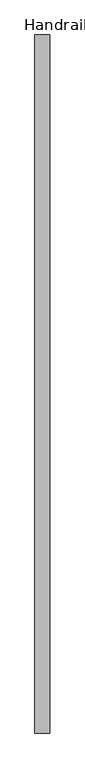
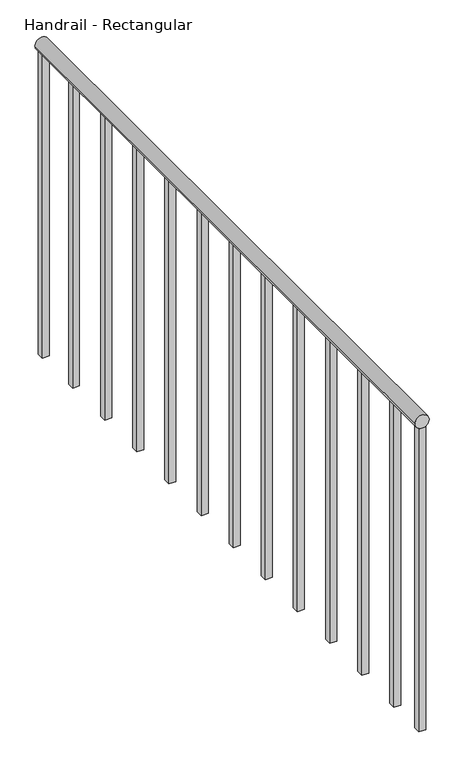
"""IFC4 building model written with IfcOpenShell, lengths in millimetres: railing geometry, Handrail - Rectangular."""

import ifcopenshell
import ifcopenshell.guid

model = None  # the IFC model being written
_history = None  # IfcOwnerHistory: only IFC2X3 demands one
_inside = {}  # id of a spatial element -> (the spatial element, [elements in it])
_under = {}  # id of a project, library or spatial element -> (it, [spatial elements below it])
_declared = {}  # id of a project -> (the project, [libraries it declares])
_typed = {}  # id of a type object -> (the type object, [elements of that type])
_made_of = {}  # id of a material, layer set ... -> (it, [elements and type objects made of it])


def new_model(schema):
    """Start an empty IFC model of exactly this schema.

    Asked for "IFC4X3", IfcOpenShell would pick the latest addendum, in which some entities
    have other attributes; the version numbers below select the first issue.
    IFC2X3 requires an IfcOwnerHistory on every rooted entity: one is made here for all.
    """
    global model, _history
    if schema == "IFC4X3":
        model = ifcopenshell.file(schema_version=(4, 3, 0, 0))
    else:
        model = ifcopenshell.file(schema=schema)
    _inside.clear()
    _under.clear()
    _declared.clear()
    _typed.clear()
    _made_of.clear()
    _history = None
    if model.schema == "IFC2X3":
        org = make("IfcOrganization", Name="unknown")
        user = make(
            "IfcPersonAndOrganization",
            ThePerson=make("IfcPerson", FamilyName="unknown"),
            TheOrganization=org,
        )
        app = make(
            "IfcApplication",
            ApplicationDeveloper=org,
            Version="unknown",
            ApplicationFullName="unknown",
            ApplicationIdentifier="unknown",
        )
        _history = make(
            "IfcOwnerHistory",
            OwningUser=user,
            OwningApplication=app,
            ChangeAction="ADDED",
            CreationDate=0,
        )
    return model


def make(cls, **values):
    """One entity of the class cls with the attributes given. An attribute that is None is left unset."""
    return model.create_entity(
        cls, **{name: value for name, value in values.items() if value is not None}
    )


def rooted(cls, **values):
    """An entity with a GlobalId (a new one), such as an element, a storey or a relation."""
    return make(cls, GlobalId=ifcopenshell.guid.new(), OwnerHistory=_history, **values)


def si_unit(unit_type, name, prefix=None):
    """IfcSIUnit, for example si_unit("LENGTHUNIT", "METRE", prefix="MILLI")."""
    return make("IfcSIUnit", UnitType=unit_type, Prefix=prefix, Name=name)


def assignment(units):
    """IfcUnitAssignment: the units of a project."""
    return None if units is None else make("IfcUnitAssignment", Units=units)


def point(xyz):
    """IfcCartesianPoint."""
    return None if xyz is None else make("IfcCartesianPoint", Coordinates=xyz)


def direction(xyz):
    """IfcDirection."""
    return None if xyz is None else make("IfcDirection", DirectionRatios=xyz)


def frame(location, z_axis=None, x_axis=None):
    """IfcAxis2Placement3D, a coordinate frame: its origin and axes. An axis left out is left unset."""
    return make(
        "IfcAxis2Placement3D",
        Location=point(location),
        Axis=direction(z_axis),
        RefDirection=direction(x_axis),
    )


def frame_2d(location, x_axis=None):
    """IfcAxis2Placement2D, a coordinate frame in the plane: its origin and x axis."""
    return make(
        "IfcAxis2Placement2D", Location=point(location), RefDirection=direction(x_axis)
    )


def origin():
    """The frame at (0, 0, 0) with its axes left unset."""
    return frame((0.0, 0.0, 0.0))


def place(relative_to, where):
    """IfcLocalPlacement: puts the frame where relative to a parent placement (None: the world)."""
    return make(
        "IfcLocalPlacement", PlacementRelTo=relative_to, RelativePlacement=where
    )


def context(
    kind, dimensions, precision=None, world=None, true_north=None, identifier=None
):
    """IfcGeometricRepresentationContext, for example the 3D "Model" context."""
    return make(
        "IfcGeometricRepresentationContext",
        ContextIdentifier=identifier,
        ContextType=kind,
        CoordinateSpaceDimension=dimensions,
        Precision=precision,
        WorldCoordinateSystem=world,
        TrueNorth=true_north,
    )


def project(units=None, contexts=None):
    """IfcProject with its units and contexts."""
    return rooted(
        "IfcProject",
        Name="project",
        RepresentationContexts=contexts,
        UnitsInContext=assignment(units),
    )


def spatial(cls, under=None, at=None, **own):
    """A site, building, storey or space (cls), placed at a placement, below another one or the project."""
    s = rooted(cls, ObjectPlacement=at, **own)
    if under is not None:
        _under.setdefault(under.id(), (under, []))[1].append(s)
    return s


def polyline(points):
    """IfcPolyline through the points."""
    return make("IfcPolyline", Points=[point(p) for p in points])


def circle_curve(where, radius):
    """IfcCircle in the frame where."""
    return make("IfcCircle", Position=where, Radius=radius)


def trimmed(basis, trim1, trim2, sense, master):
    """IfcTrimmedCurve: the piece of a basis curve between two trims."""
    return make(
        "IfcTrimmedCurve",
        BasisCurve=basis,
        Trim1=trim1,
        Trim2=trim2,
        SenseAgreement=sense,
        MasterRepresentation=master,
    )


def segment(curve, same_sense, transition):
    """IfcCompositeCurveSegment."""
    return make(
        "IfcCompositeCurveSegment",
        Transition=transition,
        SameSense=same_sense,
        ParentCurve=curve,
    )


def composite_curve(segments, self_intersect=None):
    """IfcCompositeCurve: segments joined end to end."""
    return make("IfcCompositeCurve", Segments=segments, SelfIntersect=self_intersect)


def outline(outer, holes=None, kind="AREA"):
    """IfcArbitraryClosedProfileDef: a profile drawn as a closed curve; with holes, ...WithVoids."""
    if holes is None:
        return make("IfcArbitraryClosedProfileDef", ProfileType=kind, OuterCurve=outer)
    return make(
        "IfcArbitraryProfileDefWithVoids",
        ProfileType=kind,
        OuterCurve=outer,
        InnerCurves=holes,
    )


def extrude(swept, where, along, depth):
    """IfcExtrudedAreaSolid: the profile swept, set in the frame where, extruded along a direction by depth."""
    return make(
        "IfcExtrudedAreaSolid",
        SweptArea=swept,
        Position=where,
        ExtrudedDirection=direction(along),
        Depth=depth,
    )


def shape(context_of_items, identifier, shape_type, items):
    """IfcShapeRepresentation: the items that make up one representation, for example the "Body"."""
    return make(
        "IfcShapeRepresentation",
        ContextOfItems=context_of_items,
        RepresentationIdentifier=identifier,
        RepresentationType=shape_type,
        Items=items,
    )


def source(mapping_origin, context_of_items, identifier, shape_type, items):
    """IfcRepresentationMap: a shape defined once, which mapped items show again and again."""
    return make(
        "IfcRepresentationMap",
        MappingOrigin=mapping_origin,
        MappedRepresentation=shape(context_of_items, identifier, shape_type, items),
    )


def transform(
    local_origin,
    x_axis=None,
    y_axis=None,
    z_axis=None,
    scale=None,
    scale2=None,
    scale3=None,
    uniform=True,
):
    """IfcCartesianTransformationOperator3D, or its non-uniform kind. x_axis, y_axis, z_axis: its Axis1, 2, 3."""
    if uniform:
        return make(
            "IfcCartesianTransformationOperator3D",
            Axis1=direction(x_axis),
            Axis2=direction(y_axis),
            LocalOrigin=point(local_origin),
            Scale=scale,
            Axis3=direction(z_axis),
        )
    return make(
        "IfcCartesianTransformationOperator3DnonUniform",
        Axis1=direction(x_axis),
        Axis2=direction(y_axis),
        LocalOrigin=point(local_origin),
        Scale=scale,
        Axis3=direction(z_axis),
        Scale2=scale2,
        Scale3=scale3,
    )


def mapped(mapping_source, mapping_target):
    """IfcMappedItem: shows the shape of a source again, moved by a transform."""
    return make(
        "IfcMappedItem", MappingSource=mapping_source, MappingTarget=mapping_target
    )


def made_of(thing, what):
    """Note that an element or type object is made of a material, layer set ...; save() writes the relation."""
    if what is not None:
        _made_of.setdefault(what.id(), (what, []))[1].append(thing)
    return thing


def element(
    cls,
    number,
    at=None,
    inside=None,
    cuts=None,
    type_object=None,
    material=None,
    context=None,
    identifier="Body",
    shape_type=None,
    held_by="IfcProductDefinitionShape",
    body=None,
    shapes=None,
    **own,
):
    """One element of the class cls, such as IfcWall. Its Tag is "e" and its number.

    at: its placement. inside: the storey or other place that contains it. cuts: it is an
    opening in that element (IfcRelVoidsElement). A single representation is given by context,
    identifier, shape_type and body (its items); several are given by shapes. held_by: the class
    of the entity that holds the representations. save() writes the other relations.
    """
    e = rooted(cls, Tag="e%d" % number, ObjectPlacement=at, **own)
    if body is not None:
        shapes = [shape(context, identifier, shape_type, body)]
    if shapes is not None:
        e.Representation = make(held_by, Representations=shapes)
    if inside is not None:
        _inside.setdefault(inside.id(), (inside, []))[1].append(e)
    if cuts is not None:
        rooted(
            "IfcRelVoidsElement", RelatingBuildingElement=cuts, RelatedOpeningElement=e
        )
    if type_object is not None:
        _typed.setdefault(type_object.id(), (type_object, []))[1].append(e)
    return made_of(e, material)


def aggregate(whole, parts):
    """IfcRelAggregates: a whole, such as a stair, and the parts it consists of."""
    return rooted("IfcRelAggregates", RelatingObject=whole, RelatedObjects=parts)


def save(model, path):
    """Write the relations noted so far, then the file.

    IfcRelAggregates (storeys below a building ...), IfcRelContainedInSpatialStructure (elements
    in a storey), IfcRelDefinesByType, IfcRelAssociatesMaterial and IfcRelDeclares: one each for
    every whole, place, type object, material and project.
    """
    for whole, parts in _under.values():
        aggregate(whole, parts)
    for where, things in _inside.values():
        rooted(
            "IfcRelContainedInSpatialStructure",
            RelatedElements=things,
            RelatingStructure=where,
        )
    for kind, things in _typed.values():
        rooted("IfcRelDefinesByType", RelatedObjects=things, RelatingType=kind)
    for what, things in _made_of.values():
        rooted("IfcRelAssociatesMaterial", RelatedObjects=things, RelatingMaterial=what)
    for by, libraries in _declared.values():
        rooted("IfcRelDeclares", RelatingContext=by, RelatedDefinitions=libraries)
    model.write(path)


def handrail_rectangular_8ddc5b96(model_context):
    return source(origin(), model_context, "Body", "SweptSolid", [
        extrude(outline(composite_curve([segment(trimmed(circle_curve(frame_2d((10039.35, -32167.4839563)), 19.05), [point((10039.35, -32186.5339563))], [point((10039.35, -32148.4339563))], False, "CARTESIAN"), True, "CONTINUOUS"), segment(trimmed(circle_curve(frame_2d((10039.35, -32167.4839563)), 19.05), [point((10039.35, -32148.4339563))], [point((10039.35, -32186.5339563))], False, "CARTESIAN"), True, "CONTINUOUS")], self_intersect=False)), frame((0.0, 8414.2316867, 0.0), z_axis=(0.0, 1.0, 0.0), x_axis=(0.0, 0.0, 1.0)), (0.0, 0.0, 1.0), 1803.4),
        extrude(outline(polyline([(-32157.9589563, 8550.7566867), (-32157.9589563, 8531.7066867), (-32177.0089563, 8531.7066867), (-32177.0089563, 8550.7566867), (-32157.9589563, 8550.7566867)])), frame((0.0, 0.0, 9144.0), z_axis=(0.0, 0.0, 1.0), x_axis=(1.0, 0.0, 0.0)), (0.0, 0.0, 1.0), 876.3),
        extrude(outline(polyline([(-32157.9589563, 8703.1566867), (-32157.9589563, 8684.1066867), (-32177.0089563, 8684.1066867), (-32177.0089563, 8703.1566867), (-32157.9589563, 8703.1566867)])), frame((0.0, 0.0, 9144.0), z_axis=(0.0, 0.0, 1.0), x_axis=(1.0, 0.0, 0.0)), (0.0, 0.0, 1.0), 876.3),
        extrude(outline(polyline([(-32157.9589563, 8855.5566867), (-32157.9589563, 8836.5066867), (-32177.0089563, 8836.5066867), (-32177.0089563, 8855.5566867), (-32157.9589563, 8855.5566867)])), frame((0.0, 0.0, 9144.0), z_axis=(0.0, 0.0, 1.0), x_axis=(1.0, 0.0, 0.0)), (0.0, 0.0, 1.0), 876.3),
        extrude(outline(polyline([(-32157.9589563, 9007.9566867), (-32157.9589563, 8988.9066867), (-32177.0089563, 8988.9066867), (-32177.0089563, 9007.9566867), (-32157.9589563, 9007.9566867)])), frame((0.0, 0.0, 9144.0), z_axis=(0.0, 0.0, 1.0), x_axis=(1.0, 0.0, 0.0)), (0.0, 0.0, 1.0), 876.3),
        extrude(outline(polyline([(-32157.9589563, 9160.3566867), (-32157.9589563, 9141.3066867), (-32177.0089563, 9141.3066867), (-32177.0089563, 9160.3566867), (-32157.9589563, 9160.3566867)])), frame((0.0, 0.0, 9144.0), z_axis=(0.0, 0.0, 1.0), x_axis=(1.0, 0.0, 0.0)), (0.0, 0.0, 1.0), 876.3),
        extrude(outline(polyline([(-32157.9589563, 9312.7566867), (-32157.9589563, 9293.7066867), (-32177.0089563, 9293.7066867), (-32177.0089563, 9312.7566867), (-32157.9589563, 9312.7566867)])), frame((0.0, 0.0, 9144.0), z_axis=(0.0, 0.0, 1.0), x_axis=(1.0, 0.0, 0.0)), (0.0, 0.0, 1.0), 876.3),
        extrude(outline(polyline([(-32157.9589563, 9465.1566867), (-32157.9589563, 9446.1066867), (-32177.0089563, 9446.1066867), (-32177.0089563, 9465.1566867), (-32157.9589563, 9465.1566867)])), frame((0.0, 0.0, 9144.0), z_axis=(0.0, 0.0, 1.0), x_axis=(1.0, 0.0, 0.0)), (0.0, 0.0, 1.0), 876.3),
        extrude(outline(polyline([(-32157.9589563, 9617.5566867), (-32157.9589563, 9598.5066867), (-32177.0089563, 9598.5066867), (-32177.0089563, 9617.5566867), (-32157.9589563, 9617.5566867)])), frame((0.0, 0.0, 9144.0), z_axis=(0.0, 0.0, 1.0), x_axis=(1.0, 0.0, 0.0)), (0.0, 0.0, 1.0), 876.3),
        extrude(outline(polyline([(-32157.9589563, 9769.9566867), (-32157.9589563, 9750.9066867), (-32177.0089563, 9750.9066867), (-32177.0089563, 9769.9566867), (-32157.9589563, 9769.9566867)])), frame((0.0, 0.0, 9144.0), z_axis=(0.0, 0.0, 1.0), x_axis=(1.0, 0.0, 0.0)), (0.0, 0.0, 1.0), 876.3),
        extrude(outline(polyline([(-32157.9589563, 9922.3566867), (-32157.9589563, 9903.3066867), (-32177.0089563, 9903.3066867), (-32177.0089563, 9922.3566867), (-32157.9589563, 9922.3566867)])), frame((0.0, 0.0, 9144.0), z_axis=(0.0, 0.0, 1.0), x_axis=(1.0, 0.0, 0.0)), (0.0, 0.0, 1.0), 876.3),
        extrude(outline(polyline([(-32157.9589563, 10074.7566867), (-32157.9589563, 10055.7066867), (-32177.0089563, 10055.7066867), (-32177.0089563, 10074.7566867), (-32157.9589563, 10074.7566867)])), frame((0.0, 0.0, 9144.0), z_axis=(0.0, 0.0, 1.0), x_axis=(1.0, 0.0, 0.0)), (0.0, 0.0, 1.0), 876.3),
        extrude(outline(polyline([(-32157.9589563, 8433.2816867), (-32157.9589563, 8414.2316867), (-32177.0089563, 8414.2316867), (-32177.0089563, 8433.2816867), (-32157.9589563, 8433.2816867)])), frame((0.0, 0.0, 9144.0), z_axis=(0.0, 0.0, 1.0), x_axis=(1.0, 0.0, 0.0)), (0.0, 0.0, 1.0), 876.3),
        extrude(outline(polyline([(-32157.9589563, 10217.6316867), (-32157.9589563, 10198.5816867), (-32177.0089563, 10198.5816867), (-32177.0089563, 10217.6316867), (-32157.9589563, 10217.6316867)])), frame((0.0, 0.0, 9144.0), z_axis=(0.0, 0.0, 1.0), x_axis=(1.0, 0.0, 0.0)), (0.0, 0.0, 1.0), 876.3),
    ])


if __name__ == "__main__":
    model = new_model("IFC4")
    model_context = context("Model", 3, world=origin())
    ifc_project = project(units=[si_unit("LENGTHUNIT", "METRE", prefix="MILLI")], contexts=[model_context])
    site = spatial("IfcSite", under=ifc_project)
    building = spatial("IfcBuilding", under=site)
    placement = place(None, origin())
    handrail_rectangular_shape = handrail_rectangular_8ddc5b96(model_context)
    element("IfcRailing", 1, ObjectType="Handrail - Rectangular", at=placement, inside=building, context=model_context, shape_type="MappedRepresentation", body=[
        mapped(handrail_rectangular_shape, transform((0.0, 0.0, 0.0), x_axis=(1.0, 0.0, 0.0), y_axis=(0.0, 1.0, 0.0), z_axis=(0.0, 0.0, 1.0))),
    ])
    save(model, "model.ifc")
